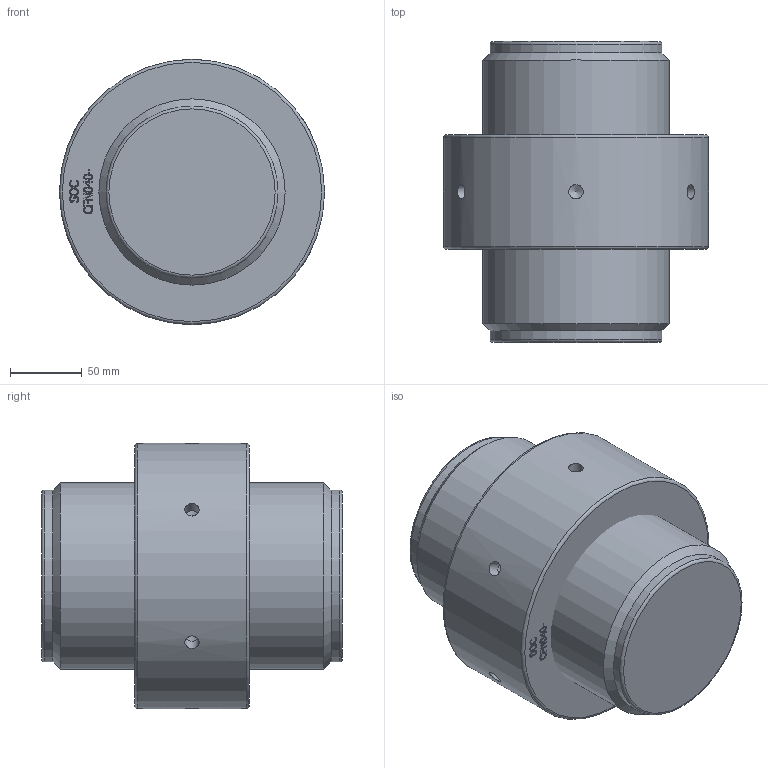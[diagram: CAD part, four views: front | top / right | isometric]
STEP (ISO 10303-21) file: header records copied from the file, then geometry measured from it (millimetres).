
FILE_DESCRIPTION(/* description */ (''),/* implementation_level */ '2;1');
FILE_NAME(/* name */ 'F:\Clienti LS\Redaelli\CYT\CYT\ARRNGEMENT\CYT040 61 061 0.stp',/* time_stamp */ '2021-05-09T08:44:35+02:00',/* author */ ('ranca'),/* organization */ (''),/* preprocessor_version */ 'ST-DEVELOPER v16.13',/* originating_system */ 'Autodesk Inventor 2018',/* authorisation */ '');
FILE_SCHEMA (('AUTOMOTIVE_DESIGN { 1 0 10303 214 3 1 1 }'));
Length unit declared in the file: millimetre
Products named in the file (3): CYT012-61-061-0; CYT012-61-061-0_1; CYT012-61-061-0_DADO
Assembly tree (2 placements, depth 2):
  CYT012-61-061-0
    CYT012-61-061-0_1
    CYT012-61-061-0_DADO
Bounding box: 185 x 210 x 185 mm (x, y, z)
Volume: 3931216.3 mm3; surface area: 217009.3 mm2
Topology: 2 solids, 2 shells, 328 faces, 887 edges, 591 vertices
Faces by surface type: bspline 172, plane 133, cylinder 11, cone 8, torus 4
Full cylindrical faces by diameter (mm): 10 x6, 120 x2, 123.505 x1, 130 x1, 185 x1
Entity records: 11196 total; most frequent: CARTESIAN_POINT 4208, ORIENTED_EDGE 1702, EDGE_CURVE 851, DIRECTION 837, VERTEX_POINT 578, LINE 475, VECTOR 475, EDGE_LOOP 381
